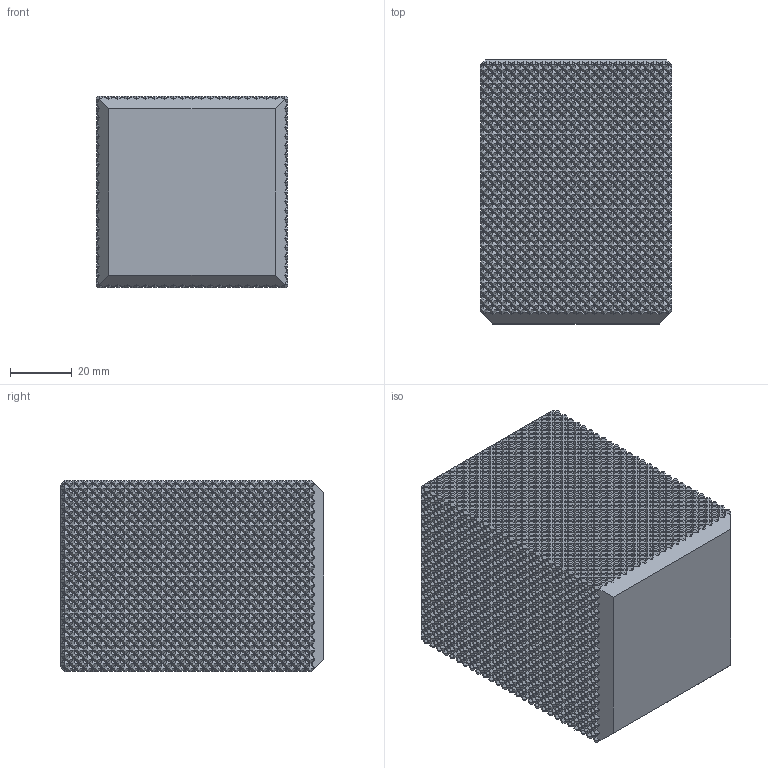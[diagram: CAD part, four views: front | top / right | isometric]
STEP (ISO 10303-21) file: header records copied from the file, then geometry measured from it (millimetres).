
FILE_DESCRIPTION(/* description */ ('KNURLED PENCIL HOLDER SQUARE','CAx-IF Rec.Pracs.---Representation and Presentation of Product Manufacturing Information (PMI)---4.0---2014-10-13'),/* implementation_level */ '2;1');
FILE_NAME(/* name */ 'KNURLED SQUARE PENCILE HOLDER.stp',/* time_stamp */ '2025-12-07T20:19:45Z',/* author */ ('SEELE'),/* organization */ ('SEELE'),/* preprocessor_version */ 'ST-DEVELOPER v20.1',/* originating_system */ 'Autodesk Inventor 2026',/* authorisation */ 'ALL RIOGHTS RESERVED');
FILE_SCHEMA (('AP242_MANAGED_MODEL_BASED_3D_ENGINEERING_MIM_LF { 1 0 10303 442 2 1 4 }'));
Products named in the file (1): KNURLED SQUARE PENCILE HOLDER
Bounding box: 62 x 85.5 x 62 mm (x, y, z)
Volume: 78580.6 mm3; surface area: 57720.4 mm2
Topology: 1 solids, 1 shells, 22271 faces, 44652 edges, 22384 vertices
Faces by surface type: plane 22271
Entity records: 535891 total; most frequent: CARTESIAN_POINT 89414, ORIENTED_EDGE 89304, DIRECTION 89228, LINE 44652, VECTOR 44652, EDGE_CURVE 44652, VERTEX_POINT 22384, AXIS2_PLACEMENT_3D 22288
